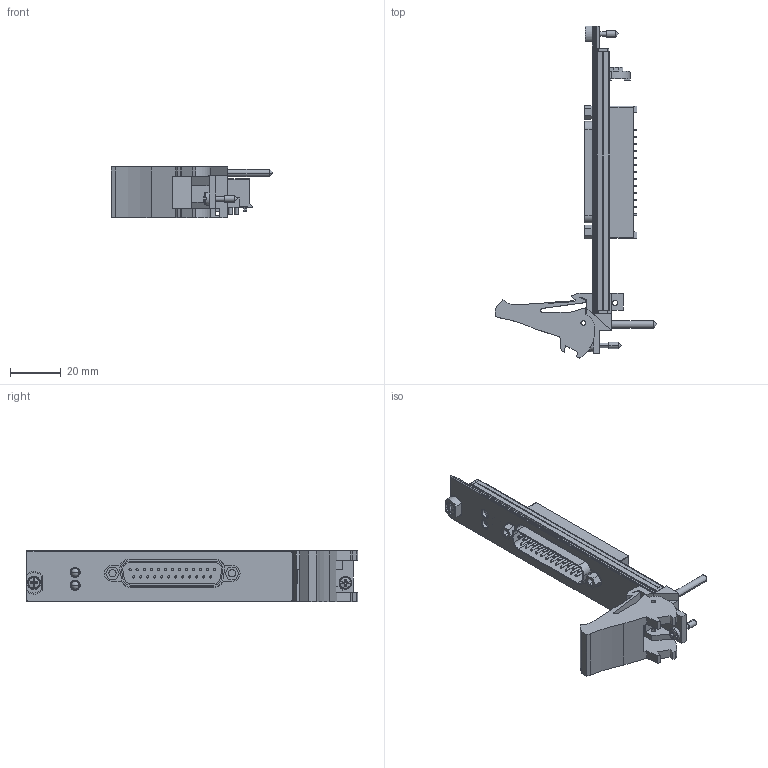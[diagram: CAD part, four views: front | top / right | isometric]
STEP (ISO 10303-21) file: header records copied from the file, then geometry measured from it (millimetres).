
FILE_DESCRIPTION((''),'2;1');
FILE_NAME('CU_PXIE-4145','2013-01-15T',('jjorden'),(''),'PRO/ENGINEER BY PARAMETRIC TECHNOLOGY CORPORATION, 2011490','PRO/ENGINEER BY PARAMETRIC TECHNOLOGY CORPORATION, 2011490','');
FILE_SCHEMA(('CONFIG_CONTROL_DESIGN'));
Length unit declared in the file: inch
Products named in the file (1): CU_PXIE-4145
Bounding box: 63.53 x 130.5 x 20.32 mm (x, y, z)
Volume: 22657 mm3; surface area: 20251.2 mm2
Topology: 5 solids, 5 shells, 722 faces, 1855 edges, 1201 vertices
Faces by surface type: plane 495, cylinder 201, cone 12, sphere 8, torus 6
Entity records: 22008 total; most frequent: CARTESIAN_POINT 4014, DIRECTION 3735, ORIENTED_EDGE 3694, EDGE_CURVE 1847, VECTOR 1357, LINE 1357, VERTEX_POINT 1201, AXIS2_PLACEMENT_3D 1189
